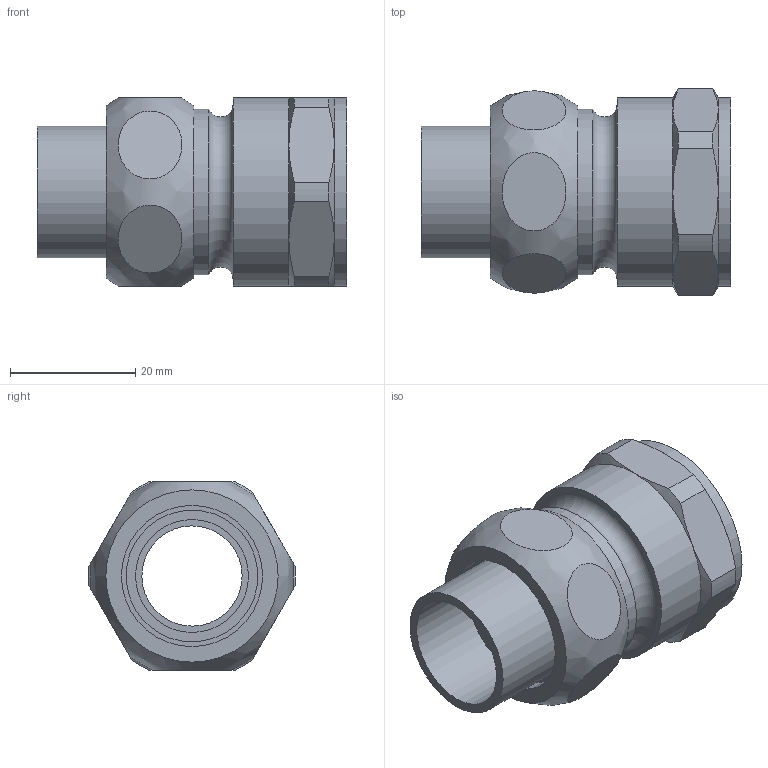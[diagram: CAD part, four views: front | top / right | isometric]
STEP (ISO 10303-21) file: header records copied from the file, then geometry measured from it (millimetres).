
FILE_DESCRIPTION(/* description */ (''),/* implementation_level */ '2;1');
FILE_NAME(/* name */ '\\LG50011\SANHA_Legnica\Engineering\Public\RYSUNKI\SANHA POLSKA\4330\inventor\14330_18-34(2).stp',/* time_stamp */ '2019-02-12T11:31:38+01:00',/* author */ ('gomulka'),/* organization */ (''),/* preprocessor_version */ 'ST-DEVELOPER v17',/* originating_system */ 'Autodesk Inventor 2019',/* authorisation */ '');
FILE_SCHEMA (('AUTOMOTIVE_DESIGN { 1 0 10303 214 3 1 1 }'));
Length unit declared in the file: millimetre
Products named in the file (5): 14330_18-34(2); 14372_18-34(1); 1DCU34; 14374_34(2); 14370g_34-34(2)
Assembly tree (4 placements, depth 2):
  14330_18-34(2)
    14372_18-34(1)
    1DCU34
    14374_34(2)
    14370g_34-34(2)
Bounding box: 49.37 x 32.98 x 30 mm (x, y, z)
Volume: 15343.1 mm3; surface area: 11729.8 mm2
Topology: 4 solids, 4 shells, 61 faces, 146 edges, 103 vertices
Faces by surface type: plane 25, cylinder 19, cone 15, bspline 1, torus 1
Full cylindrical faces by diameter (mm): 16 x1, 17 x2, 18 x1, 21 x1, 22.5 x1, 23 x1, 23.5 x1, 24.117 x2, 26.441 x1, 30 x2
Entity records: 2382 total; most frequent: CARTESIAN_POINT 740, DIRECTION 336, ORIENTED_EDGE 292, AXIS2_PLACEMENT_3D 154, EDGE_CURVE 146, VERTEX_POINT 103, CIRCLE 85, EDGE_LOOP 79
